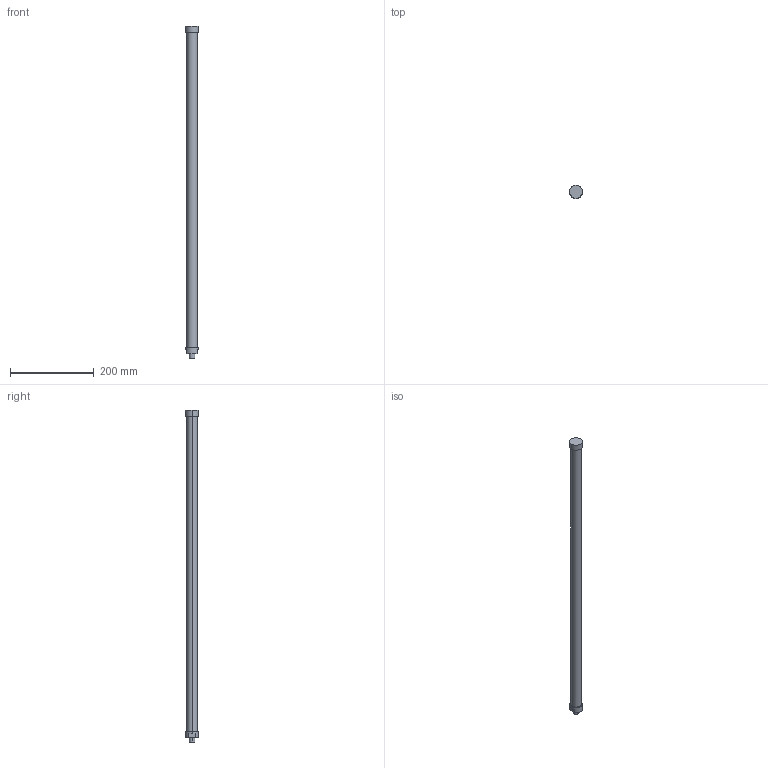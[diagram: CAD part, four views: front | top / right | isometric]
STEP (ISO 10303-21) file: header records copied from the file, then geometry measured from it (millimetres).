
FILE_DESCRIPTION(('STEP AP214'),'1');
FILE_NAME('C:/Users/Autocad/Desktop/L794-C570S1-FN.stp','2014-02-10T11:03:09',(' '),(' '),'Spatial InterOp 3D',' ',' ');
FILE_SCHEMA(('automotive_design'));
Length unit declared in the file: metre
Products named in the file (2): 1; 2
Bounding box: 31 x 31 x 794 mm (x, y, z)
Volume: 393333 mm3; surface area: 65185.9 mm2
Topology: 1 solids, 4 shells, 23 faces, 54 edges, 40 vertices
Faces by surface type: cylinder 12, plane 11
Entity records: 916 total; most frequent: DIRECTION 136, CARTESIAN_POINT 119, ORIENTED_EDGE 96, AXIS2_PLACEMENT_3D 57, EDGE_CURVE 54, VERTEX_POINT 40, CIRCLE 32, EDGE_LOOP 28
